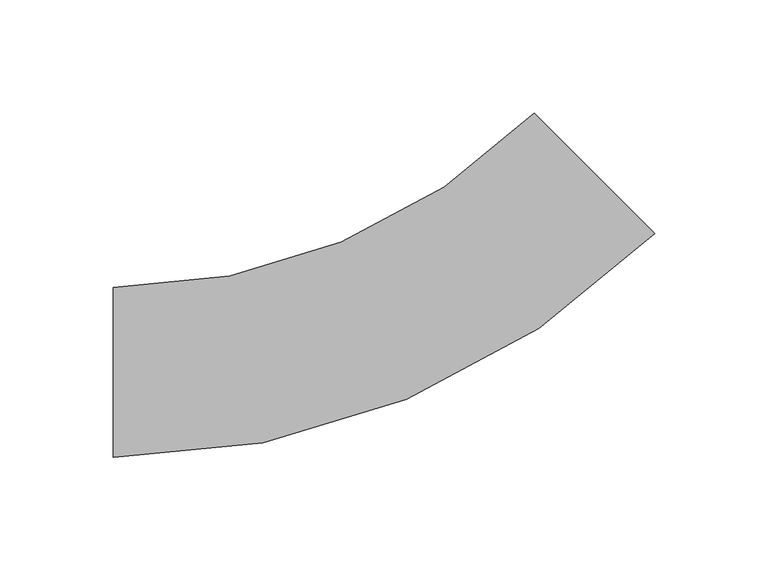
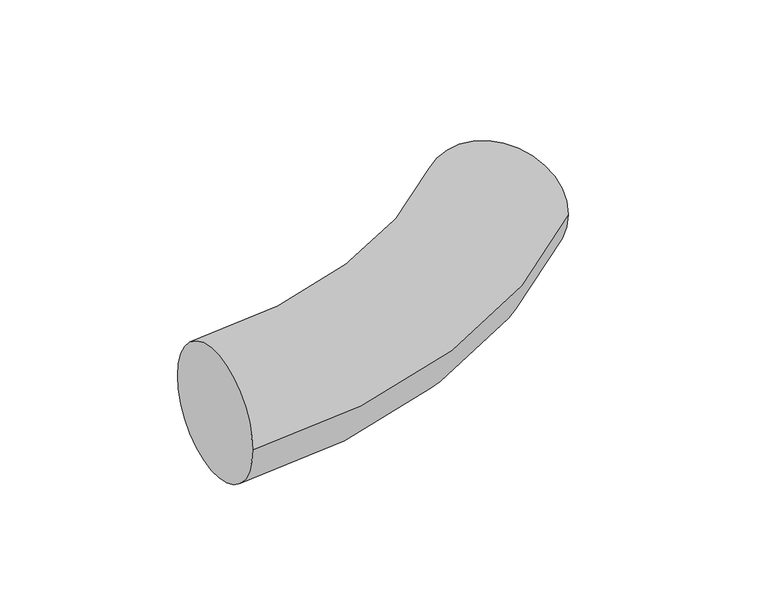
"""IFC4 building model written with IfcOpenShell, lengths in millimetres: duct segment geometry, NLRS_57_DUF_UN_Hybalans flexbend round_M&G : extract ø75 ø92 (red)."""

from ifc_helpers import new_model, si_unit, point, frame, origin, place, context, project, spatial, circle_curve, ellipse_curve, trimmed, source, transform, mapped, element, save
from ifc_brep_helpers import plane_surface, revolved_surface, advanced_brep


def duct_segment_d282bd4d(model_context):
    return source(origin(), model_context, "Body", "AdvancedBrep", [
        advanced_brep(
        [(-124.2640687, -37.5, 0.0), (-124.2640687, 37.5, 0.0), (114.3844699, 61.3514613, 0.0), (61.3514613, 114.3844699, 0.0)],
        [
            (0, 1, circle_curve(frame((-124.2640687, 0.0, 0.0), z_axis=(-1.0, 0.0, 0.0), x_axis=(0.0, 1.0, 0.0)), 37.5)),
            (1, 0, circle_curve(frame((-124.2640687, 0.0, 0.0), z_axis=(-1.0, 0.0, 0.0), x_axis=(0.0, 1.0, 0.0)), 37.5)),
            (2, 3, circle_curve(frame((87.8679656, 87.8679656, 0.0), z_axis=(0.7071067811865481, 0.7071067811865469, 0.0), x_axis=(-0.7071067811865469, 0.7071067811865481, 0.0)), 37.5)),
            (3, 2, circle_curve(frame((87.8679656, 87.8679656, 0.0), z_axis=(0.7071067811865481, 0.7071067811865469, 0.0), x_axis=(-0.7071067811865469, 0.7071067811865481, 0.0)), 37.5)),
            (3, 1, circle_curve(frame((-124.2640687, 300.0, 0.0), z_axis=(0.0, 0.0, -1.0), x_axis=(0.0, -1.0, 0.0)), 262.5)),
            (0, 2, circle_curve(frame((-124.2640687, 300.0, 0.0), z_axis=(0.0, 0.0, 1.0), x_axis=(0.0, -1.0, 0.0)), 337.5)),
        ],
        [
            plane_surface(frame((-124.2640687, 0.0, 0.0), z_axis=(-1.0, 0.0, 0.0), x_axis=(0.0, 0.0, 1.0))),
            plane_surface(frame((87.8679656, 87.8679656, 0.0), z_axis=(0.7071067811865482, 0.707106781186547, 0.0), x_axis=(0.0, 0.0, 1.0))),
            revolved_surface(trimmed(ellipse_curve(frame((-124.2640687, 0.0, 0.0), z_axis=(-1.0, 0.0, 0.0), x_axis=(0.0, 1.0, 0.0)), 37.5, 37.5), [point((-124.2640687, -37.5, 0.0))], [point((-124.2640687, 37.5, 0.0))], True, "CARTESIAN"), (-124.2640687, 300.0, 0.0), (0.0, 0.0, 1.0)),
            revolved_surface(trimmed(ellipse_curve(frame((-124.2640687, 0.0, 0.0), z_axis=(-1.0, 0.0, 0.0), x_axis=(0.0, 1.0, 0.0)), 37.5, 37.5), [point((-124.2640687, 37.5, 0.0))], [point((-124.2640687, -37.5, 0.0))], True, "CARTESIAN"), (-124.2640687, 300.0, 0.0), (0.0, 0.0, 1.0)),
        ],
        [
            (0, [[1, 2]]),
            (1, [[3, 4]]),
            (2, [[5, -1, 6, -4]]),
            (3, [[-6, -2, -5, -3]]),
        ],
    ),
    ])


if __name__ == "__main__":
    model = new_model("IFC4")
    model_context = context("Model", 3, world=origin())
    ifc_project = project(units=[si_unit("LENGTHUNIT", "METRE", prefix="MILLI")], contexts=[model_context])
    site = spatial("IfcSite", under=ifc_project)
    building = spatial("IfcBuilding", under=site)
    placement = place(None, origin())
    duct_segment_shape = duct_segment_d282bd4d(model_context)
    element("IfcDuctSegment", 1, ObjectType="NLRS_57_DUF_UN_Hybalans flexbend round_M&G : extract ø75 ø92 (red)", at=placement, inside=building, context=model_context, shape_type="MappedRepresentation", body=[
        mapped(duct_segment_shape, transform((0.0, 0.0, 0.0), x_axis=(1.0, 0.0, 0.0), y_axis=(0.0, 1.0, 0.0), z_axis=(0.0, 0.0, 1.0))),
    ])
    save(model, "model.ifc")
